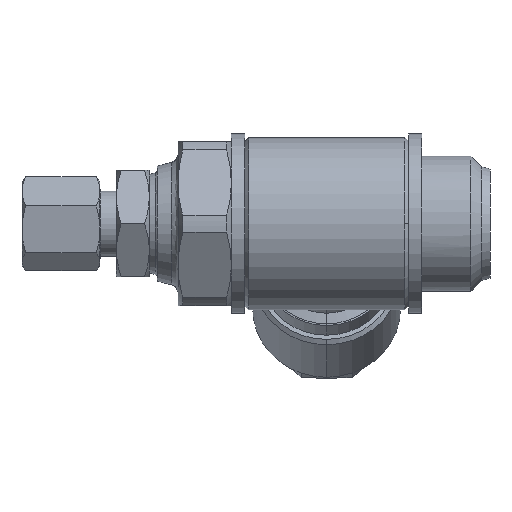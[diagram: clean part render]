
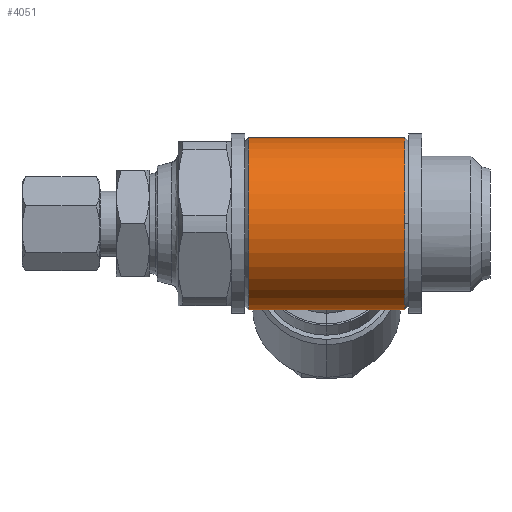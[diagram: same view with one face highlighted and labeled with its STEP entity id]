
A CAD part, left-side view. The second image highlights one B-rep face of the part: STEP entity #4051.
In plain terms, the highlighted cylindrical face has radius 10.5 mm (diameter 21 mm), a partial arc.
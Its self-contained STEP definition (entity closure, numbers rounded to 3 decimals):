
#122 = CARTESIAN_POINT ( 'NONE',  ( 0., 10.4, -10.5 ) ) ;
#624 = CIRCLE ( 'NONE', #3101, 10.5 ) ;
#891 = EDGE_CURVE ( 'NONE', #4147, #3467, #5844, .T. ) ;
#1066 = CARTESIAN_POINT ( 'NONE',  ( 0., 29.4, 10.5 ) ) ;
#1102 = EDGE_CURVE ( 'NONE', #6476, #4702, #6225, .T. ) ;
#1761 = ORIENTED_EDGE ( 'NONE', *, *, #891, .F. ) ;
#1940 = EDGE_CURVE ( 'NONE', #4147, #6476, #7282, .T. ) ;
#2611 = FACE_OUTER_BOUND ( 'NONE', #5974, .T. ) ;
#2658 = EDGE_CURVE ( 'NONE', #4181, #3467, #624, .T. ) ;
#2690 = CYLINDRICAL_SURFACE ( 'NONE', #5271, 10.5 ) ;
#2840 = CARTESIAN_POINT ( 'NONE',  ( 0., 10.4, 0. ) ) ;
#2876 = ORIENTED_EDGE ( 'NONE', *, *, #1102, .T. ) ;
#3101 = AXIS2_PLACEMENT_3D ( 'NONE', #2840, #4575, #4299 ) ;
#3417 = CARTESIAN_POINT ( 'NONE',  ( 0., 8.9, -10.5 ) ) ;
#3467 = VERTEX_POINT ( 'NONE', #4284 ) ;
#3875 = CARTESIAN_POINT ( 'NONE',  ( 0., 29.4, -10.5 ) ) ;
#3917 = CARTESIAN_POINT ( 'NONE',  ( 0., 10.4, 0. ) ) ;
#4051 = ADVANCED_FACE ( 'NONE', ( #2611 ), #2690, .T. ) ;
#4147 = VERTEX_POINT ( 'NONE', #1066 ) ;
#4151 = EDGE_CURVE ( 'NONE', #4702, #4181, #5445, .T. ) ;
#4181 = VERTEX_POINT ( 'NONE', #7188 ) ;
#4238 = ORIENTED_EDGE ( 'NONE', *, *, #2658, .T. ) ;
#4284 = CARTESIAN_POINT ( 'NONE',  ( 0., 10.4, 10.5 ) ) ;
#4299 = DIRECTION ( 'NONE',  ( 0., 0., -1. ) ) ;
#4361 = AXIS2_PLACEMENT_3D ( 'NONE', #3917, #5050, #6234 ) ;
#4421 = ORIENTED_EDGE ( 'NONE', *, *, #1940, .T. ) ;
#4575 = DIRECTION ( 'NONE',  ( 0., 1., 0. ) ) ;
#4702 = VERTEX_POINT ( 'NONE', #122 ) ;
#5050 = DIRECTION ( 'NONE',  ( 0., 1., 0. ) ) ;
#5271 = AXIS2_PLACEMENT_3D ( 'NONE', #6311, #5627, #6753 ) ;
#5426 = ORIENTED_EDGE ( 'NONE', *, *, #4151, .T. ) ;
#5445 = CIRCLE ( 'NONE', #4361, 10.5 ) ;
#5539 = CARTESIAN_POINT ( 'NONE',  ( 0., 8.9, 10.5 ) ) ;
#5627 = DIRECTION ( 'NONE',  ( 0., -1., 0. ) ) ;
#5774 = DIRECTION ( 'NONE',  ( 0., -1., 0. ) ) ;
#5844 = LINE ( 'NONE', #5539, #5975 ) ;
#5974 = EDGE_LOOP ( 'NONE', ( #1761, #4421, #2876, #5426, #4238 ) ) ;
#5975 = VECTOR ( 'NONE', #5774, 1000. ) ;
#6225 = LINE ( 'NONE', #3417, #6242 ) ;
#6234 = DIRECTION ( 'NONE',  ( 0., 0., -1. ) ) ;
#6242 = VECTOR ( 'NONE', #7423, 1000. ) ;
#6311 = CARTESIAN_POINT ( 'NONE',  ( 0., 8.9, 0. ) ) ;
#6476 = VERTEX_POINT ( 'NONE', #3875 ) ;
#6656 = AXIS2_PLACEMENT_3D ( 'NONE', #6727, #6711, #6690 ) ;
#6690 = DIRECTION ( 'NONE',  ( 0., 0., -1. ) ) ;
#6711 = DIRECTION ( 'NONE',  ( 0., -1., 0. ) ) ;
#6727 = CARTESIAN_POINT ( 'NONE',  ( 0., 29.4, 0. ) ) ;
#6753 = DIRECTION ( 'NONE',  ( 0., 0., -1. ) ) ;
#7188 = CARTESIAN_POINT ( 'NONE',  ( -10.5, 10.4, 0. ) ) ;
#7282 = CIRCLE ( 'NONE', #6656, 10.5 ) ;
#7423 = DIRECTION ( 'NONE',  ( 0., -1., 0. ) ) ;
